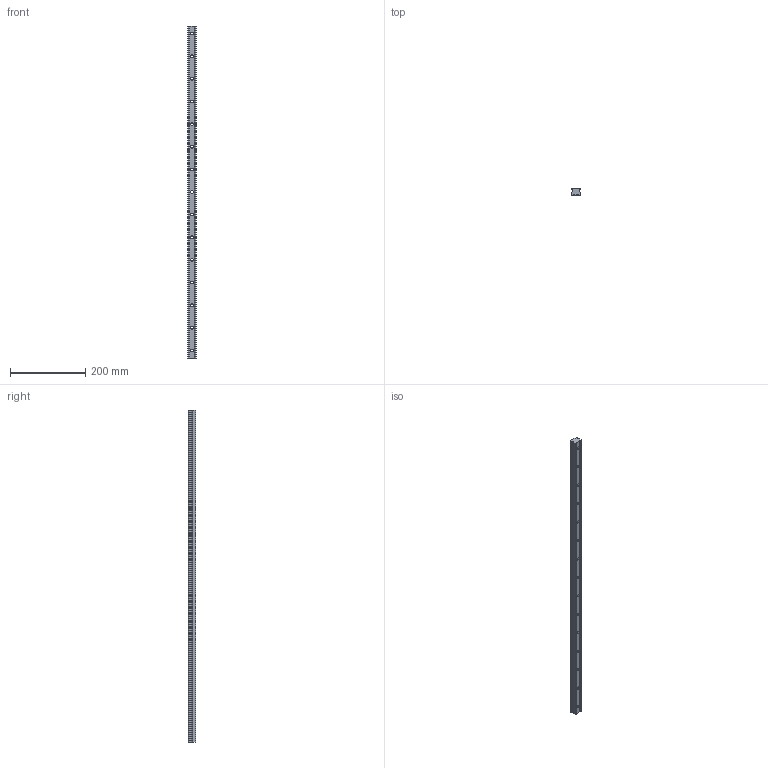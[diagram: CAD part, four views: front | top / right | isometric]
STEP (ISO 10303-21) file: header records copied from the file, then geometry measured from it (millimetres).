
FILE_DESCRIPTION (( 'STEP AP203' ), '1' );
FILE_NAME ('L1016.BL25-0880.step', '2019-06-12T12:06:00', ( '' ), ( '' ), 'SwSTEP 2.0', 'SolidWorks 2017', '' );
FILE_SCHEMA (( 'CONFIG_CONTROL_DESIGN' ));
Length unit declared in the file: millimetre
Products named in the file (1): L1016.BL25-0880
Bounding box: 23 x 19.2 x 880 mm (x, y, z)
Volume: 324010.9 mm3; surface area: 83909.4 mm2
Topology: 1 solids, 1 shells, 101 faces, 252 edges, 168 vertices
Faces by surface type: cylinder 64, plane 37
Entity records: 3211 total; most frequent: DIRECTION 584, CARTESIAN_POINT 522, ORIENTED_EDGE 504, EDGE_CURVE 252, AXIS2_PLACEMENT_3D 230, VERTEX_POINT 168, EDGE_LOOP 146, CIRCLE 128
